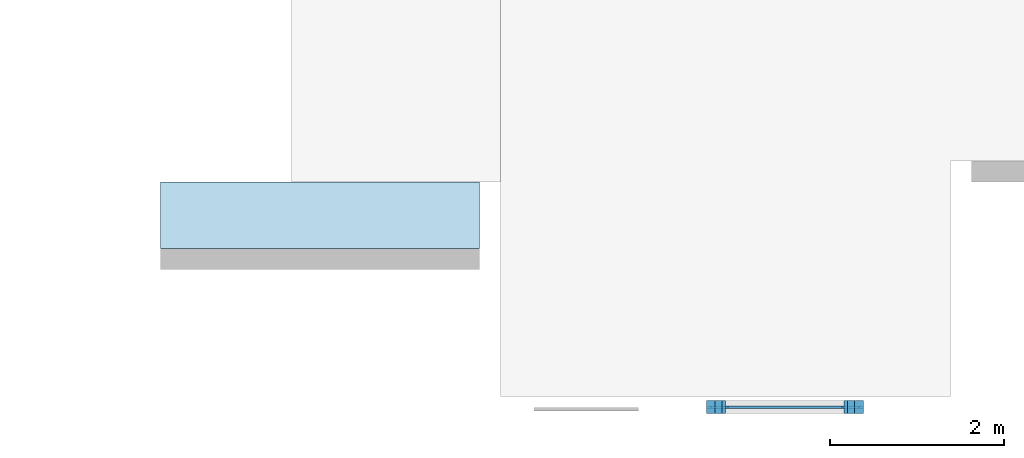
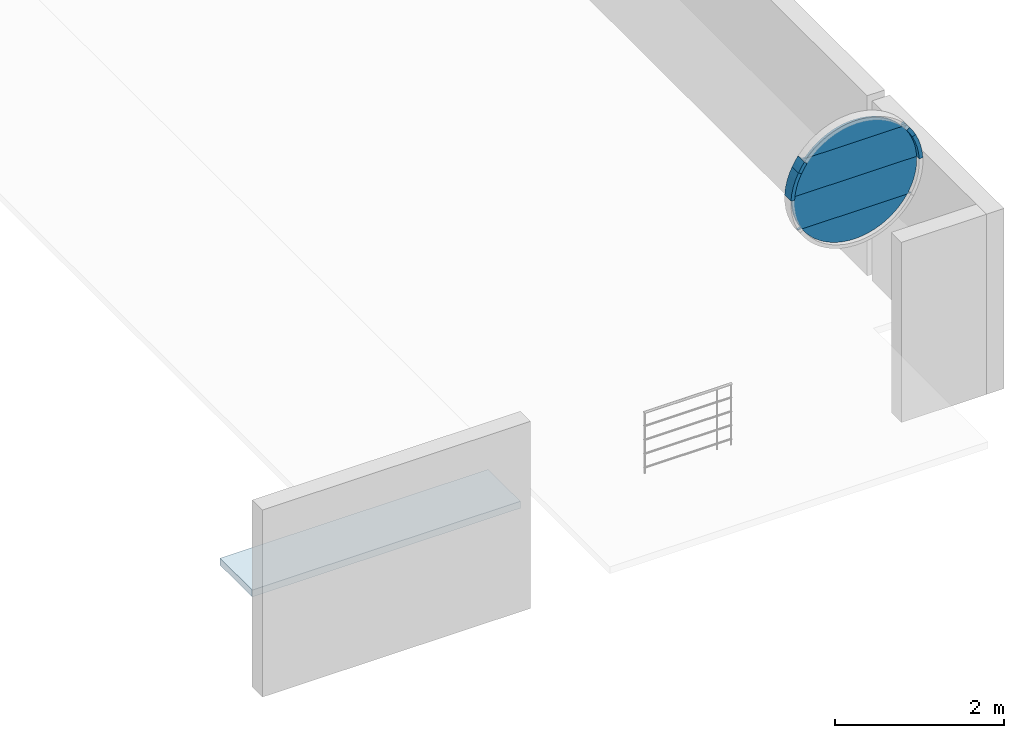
# One storey, part 1 of 4: 4 members, 4 plates, 1 slab, 2 elements without a shape of their own.
"""IFC2X3 building model written with IfcOpenShell, lengths in millimetres."""

from ifc_helpers import new_model, entity, si_unit, converted_unit, derived_unit, direction, frame, frame_2d, origin, place, context, subcontext, project, spatial, polyline, circle_curve, parameter, trimmed, segment, composite_curve, rectangle, outline, extrude, faceted_brep, source, transform, mapped, material, layer, layer_set, layer_usage, type_object, type_shapes, element, aggregate, save


model = new_model("IFC2X3")

# Units and contexts
model_context = context("Model", 3, precision=0.01, world=origin(), true_north=direction((6.12303176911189e-17, 1.0)))
body_context = subcontext(model_context, "Body", "Model", "MODEL_VIEW")
ifc_project = project(units=[si_unit("LENGTHUNIT", "METRE", prefix="MILLI"), si_unit("AREAUNIT", "SQUARE_METRE"), si_unit("VOLUMEUNIT", "CUBIC_METRE"), converted_unit("PLANEANGLEUNIT", "DEGREE", entity("IfcRatioMeasure", 0.0174532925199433), si_unit("PLANEANGLEUNIT", "RADIAN"), dimensions=[0, 0, 0, 0, 0, 0, 0]), si_unit("MASSUNIT", "GRAM", prefix="KILO"), derived_unit("MASSDENSITYUNIT", [(si_unit("MASSUNIT", "GRAM", prefix="KILO"), 1), (si_unit("LENGTHUNIT", "METRE"), -3)]), si_unit("TIMEUNIT", "SECOND"), si_unit("FREQUENCYUNIT", "HERTZ"), si_unit("THERMODYNAMICTEMPERATUREUNIT", "DEGREE_CELSIUS"), derived_unit("THERMALTRANSMITTANCEUNIT", [(si_unit("MASSUNIT", "GRAM", prefix="KILO"), 1), (si_unit("THERMODYNAMICTEMPERATUREUNIT", "KELVIN"), -1), (si_unit("TIMEUNIT", "SECOND"), -3)]), derived_unit("VOLUMETRICFLOWRATEUNIT", [(si_unit("LENGTHUNIT", "METRE"), 3), (si_unit("TIMEUNIT", "SECOND"), -1)]), si_unit("ELECTRICCURRENTUNIT", "AMPERE"), si_unit("ELECTRICVOLTAGEUNIT", "VOLT"), si_unit("POWERUNIT", "WATT"), si_unit("FORCEUNIT", "NEWTON", prefix="KILO"), si_unit("ILLUMINANCEUNIT", "LUX"), si_unit("LUMINOUSFLUXUNIT", "LUMEN"), si_unit("LUMINOUSINTENSITYUNIT", "CANDELA"), derived_unit("USERDEFINED", [(si_unit("MASSUNIT", "GRAM", prefix="KILO"), -1), (si_unit("LENGTHUNIT", "METRE"), -2), (si_unit("TIMEUNIT", "SECOND"), 3), (si_unit("LUMINOUSFLUXUNIT", "LUMEN"), 1)]), derived_unit("LINEARVELOCITYUNIT", [(si_unit("LENGTHUNIT", "METRE"), 1), (si_unit("TIMEUNIT", "SECOND"), -1)]), si_unit("PRESSUREUNIT", "PASCAL"), derived_unit("USERDEFINED", [(si_unit("LENGTHUNIT", "METRE"), -2), (si_unit("MASSUNIT", "GRAM", prefix="KILO"), 1), (si_unit("TIMEUNIT", "SECOND"), -2)])], contexts=[model_context])

# Site, building, storey
site_placement = place(None, origin())
site = spatial("IfcSite", under=ifc_project, at=site_placement, Name="表面", CompositionType="ELEMENT")
building_placement = place(site_placement, origin())
building = spatial("IfcBuilding", under=site, at=building_placement, CompositionType="ELEMENT")
storey_placement = place(building_placement, frame((0.0, 0.0, 9000.0)))
storey = spatial("IfcBuildingStorey", under=building, at=storey_placement, Name="4F", CompositionType="ELEMENT", Elevation=9000.00000000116)

# Curtain wall, members, plates
curtain_wall_type = type_object("IfcCurtainWallType", Name="幕墙:幕墙 1", PredefinedType="NOTDEFINED")
curtain_wall_placement = place(storey_placement, frame((0.0, 0.0, -9000.0)))
curtain_wall = element("IfcCurtainWall", 1, at=curtain_wall_placement, inside=storey, type_object=curtain_wall_type, Name="幕墙:幕墙 1", ObjectType="幕墙:幕墙 1")
ifc_material_1 = material(Name="金属 - 铝")
member_type_1 = type_object("IfcMemberType", Name="50 x 150mm", PredefinedType="MEMBER")
shared_shape_1 = source(origin(), body_context, "Body", "Brep", [
    faceted_brep([(-50.0, 75.0, 0.0), (-50.0, -75.0, 0.0), (0.0, -75.0, 0.0), (0.0, 75.0, 0.0), (-12.7902085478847, 75.0, -151.305395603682), (-12.7902085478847, -75.0, -151.305395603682), (-62.0807057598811, -75.0, -142.912131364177), (-62.0807057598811, 75.0, -142.912131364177), (-53.0255525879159, 75.0, -71.710913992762), (-3.20324402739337, 75.0, -75.9225134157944), (-53.0255525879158, -75.0, -71.710913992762), (-3.20324402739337, -75.0, -75.9225134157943)], [[[0, 1, 2, 3]], [[4, 5, 6, 7]], [[8, 0, 3, 9, 4, 7]], [[10, 1, 0, 8]], [[7, 6, 10, 8]], [[11, 2, 1, 10, 6, 5]], [[3, 2, 11, 9]], [[9, 11, 5, 4]]]),
])
type_shapes(member_type_1, [shared_shape_1])
member_1_placement = place(storey_placement, frame((-7850.24991264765, -32116.868426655, 6239.71771839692), z_axis=(0.460697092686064, 0.0, -0.887557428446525), x_axis=(0.887557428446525, 0.0, 0.460697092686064)))
member_1 = element("IfcMember", 2, at=member_1_placement, type_object=member_type_1, material=ifc_material_1, Name="矩形竖梃:50 x 150mm", ObjectType="50 x 150mm", context=body_context, shape_type="MappedRepresentation", body=[
    mapped(shared_shape_1, transform((0.0, 0.0, 0.0), scale=1.0)),
])
member_type_2 = type_object("IfcMemberType", Name="50 x 150mm", PredefinedType="MEMBER")
shared_shape_2 = source(origin(), body_context, "Body", "Brep", [
    faceted_brep([(-46.5399812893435, 75.0, -285.887506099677), (-82.1796667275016, 75.0, -376.021021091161), (-127.620968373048, 75.0, -355.162255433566), (-93.9582996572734, 75.0, -270.028657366), (-69.6315880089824, 75.0, -181.77268937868), (-54.9221257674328, 75.0, -91.4148645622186), (-50.0, 75.0, 0.0), (0.0, 75.0, 0.0), (-5.21120341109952, 75.0, -96.7836817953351), (-20.7845559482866, 75.0, -192.448243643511), (-54.9221257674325, -75.0, -91.4148645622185), (-50.0, -75.0, 0.0), (-69.6315880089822, -75.0, -181.77268937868), (-127.620968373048, -75.0, -355.162255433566), (-93.9582996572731, -75.0, -270.028657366), (-82.1796667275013, -75.0, -376.021021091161), (-46.5399812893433, -75.0, -285.887506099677), (-20.7845559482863, -75.0, -192.448243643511), (-5.21120341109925, -75.0, -96.7836817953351), (0.0, -75.0, 0.0)], [[[0, 1, 2, 3, 4, 5, 6, 7, 8, 9]], [[5, 10, 11, 6]], [[10, 5, 4, 12]], [[3, 2, 13, 14]], [[4, 3, 14, 12]], [[12, 14, 13, 15, 16, 17, 18, 19, 11, 10]], [[7, 19, 18, 8]], [[9, 8, 18, 17]], [[16, 15, 1, 0]], [[16, 0, 9, 17]], [[7, 6, 11, 19]], [[2, 1, 15, 13]]]),
])
type_shapes(member_type_2, [shared_shape_2])
member_2_placement = place(storey_placement, frame((-9450.24991264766, -32116.868426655, 6239.71771839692), z_axis=(0.460697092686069, 0.0, 0.887557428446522), x_axis=(-0.887557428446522, 0.0, 0.460697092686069)))
member_2 = element("IfcMember", 3, at=member_2_placement, type_object=member_type_2, material=ifc_material_1, Name="矩形竖梃:50 x 150mm", ObjectType="50 x 150mm", context=body_context, shape_type="MappedRepresentation", body=[
    mapped(shared_shape_2, transform((0.0, 0.0, 0.0), scale=1.0)),
])
member_type_3 = type_object("IfcMemberType", Name="50 x 150mm", PredefinedType="MEMBER")
shared_shape_3 = source(origin(), body_context, "Body", "Brep", [
    faceted_brep([(-50.0, 75.0, 0.0), (-50.0, -75.0, 0.0), (0.0, -75.0, 0.0), (0.0, 75.0, 0.0), (-12.7902085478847, 75.0, -151.305395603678), (-12.7902085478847, -75.0, -151.305395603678), (-62.0807057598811, -75.0, -142.912131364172), (-62.0807057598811, 75.0, -142.912131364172), (-53.0255525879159, 75.0, -71.7109139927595), (-3.20324402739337, 75.0, -75.922513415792), (-53.0255525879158, -75.0, -71.7109139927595), (-3.20324402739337, -75.0, -75.922513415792)], [[[0, 1, 2, 3]], [[4, 5, 6, 7]], [[8, 0, 3, 9, 4, 7]], [[10, 1, 0, 8]], [[7, 6, 10, 8]], [[11, 2, 1, 10, 6, 5]], [[3, 2, 11, 9]], [[9, 11, 5, 4]]]),
])
type_shapes(member_type_3, [shared_shape_3])
member_3_placement = place(storey_placement, frame((-9369.19191217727, -32116.868426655, 6368.11753433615), z_axis=(0.603149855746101, 0.0, 0.797627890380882), x_axis=(-0.797627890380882, 0.0, 0.603149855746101)))
member_3 = element("IfcMember", 4, at=member_3_placement, type_object=member_type_3, material=ifc_material_1, Name="矩形竖梃:50 x 150mm", ObjectType="50 x 150mm", context=body_context, shape_type="MappedRepresentation", body=[
    mapped(shared_shape_3, transform((0.0, 0.0, 0.0), scale=1.0)),
])
member_type_4 = type_object("IfcMemberType", Name="50 x 150mm", PredefinedType="MEMBER")
shared_shape_4 = source(origin(), body_context, "Body", "Brep", [
    faceted_brep([(-46.5399812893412, 75.0, -285.887506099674), (-82.1796667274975, 75.0, -376.021021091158), (-127.620968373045, 75.0, -355.162255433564), (-93.9582996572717, 75.0, -270.028657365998), (-69.6315880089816, 75.0, -181.772689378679), (-54.9221257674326, 75.0, -91.4148645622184), (-50.0, 75.0, 0.0), (0.0, 75.0, 0.0), (-5.21120341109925, 75.0, -96.783681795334), (-20.7845559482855, 75.0, -192.448243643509), (-54.9221257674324, -75.0, -91.4148645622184), (-50.0, -75.0, 0.0), (-69.6315880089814, -75.0, -181.772689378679), (-127.620968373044, -75.0, -355.162255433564), (-93.9582996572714, -75.0, -270.028657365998), (-82.1796667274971, -75.0, -376.021021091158), (-46.539981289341, -75.0, -285.887506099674), (-20.7845559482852, -75.0, -192.448243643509), (-5.21120341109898, -75.0, -96.783681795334), (0.0, -75.0, 0.0)], [[[0, 1, 2, 3, 4, 5, 6, 7, 8, 9]], [[5, 10, 11, 6]], [[10, 5, 4, 12]], [[3, 2, 13, 14]], [[4, 3, 14, 12]], [[12, 14, 13, 15, 16, 17, 18, 19, 11, 10]], [[7, 19, 18, 8]], [[9, 8, 18, 17]], [[16, 15, 1, 0]], [[16, 0, 9, 17]], [[7, 6, 11, 19]], [[2, 1, 15, 13]]]),
])
type_shapes(member_type_4, [shared_shape_4])
member_4_placement = place(storey_placement, frame((-7749.95729511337, -32116.868426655, 5868.11753433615), z_axis=(0.0484264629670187, 0.0, -0.998826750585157), x_axis=(0.998826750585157, 0.0, 0.0484264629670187)))
member_4 = element("IfcMember", 5, at=member_4_placement, type_object=member_type_4, material=ifc_material_1, Name="矩形竖梃:50 x 150mm", ObjectType="50 x 150mm", context=body_context, shape_type="MappedRepresentation", body=[
    mapped(shared_shape_4, transform((0.0, 0.0, 0.0), scale=1.0)),
])
ifc_material_2 = material(Name="<Unnamed>")
ifc_layer_1 = layer(ifc_material_2, 30.0)
ifc_layer_set_1 = layer_set([ifc_layer_1], Name="幕墙系统:1450 x 2100mm")
ifc_layer_usage_1 = layer_usage(ifc_layer_set_1, "AXIS3", "POSITIVE", 0.0)
plate_type_1 = type_object("IfcPlateType", Name="玻璃", PredefinedType="CURTAIN_PANEL", material=ifc_layer_set_1)
shared_shape_5 = source(origin(), body_context, "Body", "SweptSolid", [
    extrude(outline(composite_curve([segment(trimmed(circle_curve(frame_2d((-231.049009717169, 393.538319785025), x_axis=(1.0, 0.0)), 851.350126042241), [parameter(242.831400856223)], [parameter(358.003565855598)], True, "PARAMETER"), True, "CONTINUOUS"), segment(polyline([(619.784344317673, 363.879581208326), (-619.784344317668, -363.879581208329)]), True, "CONTINUOUS")], self_intersect=False)), frame((0.0, -15.0, 0.0), z_axis=(0.0, 1.0, 0.0), x_axis=(-0.862359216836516, 0.0, -0.506296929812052)), (0.0, 0.0, 1.0), 30.0),
])
type_shapes(plate_type_1, [shared_shape_5])
plate_1_placement = place(curtain_wall_placement, frame((-8650.24991264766, -32116.868426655, 14368.1175343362)))
plate_1 = element("IfcPlate", 6, at=plate_1_placement, type_object=plate_type_1, material=ifc_layer_usage_1, Name="系统嵌板:玻璃", ObjectType="玻璃", context=body_context, shape_type="MappedRepresentation", body=[
    mapped(shared_shape_5, transform((0.0, 0.0, 0.0), scale=1.0)),
])
ifc_layer_usage_2 = layer_usage(ifc_layer_set_1, "AXIS3", "POSITIVE", 0.0)
plate_type_2 = type_object("IfcPlateType", Name="玻璃", PredefinedType="CURTAIN_PANEL", material=ifc_layer_set_1)
shared_shape_6 = source(origin(), body_context, "Body", "SweptSolid", [
    extrude(outline(composite_curve([segment(polyline([(-799.773078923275, 173.012905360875), (540.829153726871, -614.063734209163)]), True, "CONTINUOUS"), segment(polyline([(540.829153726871, -614.063734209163), (516.46281184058, -570.402751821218)]), True, "CONTINUOUS"), segment(trimmed(circle_curve(frame_2d((101.577047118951, 173.012905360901), x_axis=(0.487326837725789, -0.873219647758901)), 851.35012604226), [parameter(0.0)], [parameter(33.1932009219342)], True, "PARAMETER"), True, "CONTINUOUS"), segment(polyline([(855.758857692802, -221.964098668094), (900.052138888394, -245.161194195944)]), True, "CONTINUOUS"), segment(polyline([(900.052138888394, -245.161194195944), (-652.699134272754, 666.469582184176)]), True, "CONTINUOUS"), segment(polyline([(-652.699134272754, 666.469582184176), (-610.857670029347, 639.096385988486)]), True, "CONTINUOUS"), segment(trimmed(circle_curve(frame_2d((101.577047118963, 173.012905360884), x_axis=(-0.836829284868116, 0.547463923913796)), 851.350126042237), [parameter(0.0)], [parameter(33.1932009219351)], True, "PARAMETER"), True, "CONTINUOUS"), segment(polyline([(-749.773078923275, 173.012905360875), (-799.773078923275, 173.012905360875)]), True, "CONTINUOUS")], self_intersect=False)), frame((0.0, -15.0, 255.723380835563), z_axis=(0.0, -1.0, 0.0), x_axis=(0.862359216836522, 0.0, 0.506296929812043)), (0.0, 0.0, -1.0), 30.0),
])
type_shapes(plate_type_2, [shared_shape_6])
plate_2_placement = place(curtain_wall_placement, frame((-8650.24991264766, -32116.868426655, 14368.1175343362)))
plate_2 = element("IfcPlate", 7, at=plate_2_placement, type_object=plate_type_2, material=ifc_layer_usage_2, Name="系统嵌板:玻璃", ObjectType="玻璃", context=body_context, shape_type="MappedRepresentation", body=[
    mapped(shared_shape_6, transform((0.0, 0.0, 0.0), scale=1.0)),
])
ifc_layer_usage_3 = layer_usage(ifc_layer_set_1, "AXIS3", "POSITIVE", 0.0)
plate_type_3 = type_object("IfcPlateType", Name="玻璃", PredefinedType="CURTAIN_PANEL", material=ifc_layer_set_1)
shared_shape_7 = source(origin(), body_context, "Body", "SweptSolid", [
    extrude(outline(composite_curve([segment(trimmed(circle_curve(frame_2d((-171.955723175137, -331.281837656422), x_axis=(1.0, 0.0)), 851.350126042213), [parameter(335.506776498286)], [parameter(0.0)], True, "PARAMETER"), True, "CONTINUOUS"), segment(trimmed(circle_curve(frame_2d((-171.955723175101, -331.281837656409), x_axis=(0.985809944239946, 0.167865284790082)), 851.350126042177), [parameter(350.336274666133)], [parameter(0.0)], True, "PARAMETER"), True, "CONTINUOUS"), segment(polyline([(667.313697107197, -188.36970629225), (716.604194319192, -179.976442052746)]), True, "CONTINUOUS"), segment(polyline([(716.604194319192, -179.976442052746), (-559.600430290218, 482.452535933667)]), True, "CONTINUOUS"), segment(polyline([(-559.600430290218, 482.452535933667), (-538.096871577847, 437.312786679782)]), True, "CONTINUOUS"), segment(trimmed(circle_curve(frame_2d((-171.955723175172, -331.281837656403), x_axis=(-0.575516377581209, 0.817790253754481)), 851.350126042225), [parameter(350.336274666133)], [parameter(0.0)], True, "PARAMETER"), True, "CONTINUOUS"), segment(trimmed(circle_curve(frame_2d((-171.955723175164, -331.281837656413), x_axis=(-0.864206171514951, 0.503137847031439)), 851.350126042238), [parameter(335.343618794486)], [parameter(359.836842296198)], True, "PARAMETER"), True, "CONTINUOUS"), segment(polyline([(-906.474998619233, 99.1580200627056), (602.781669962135, -684.239354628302)]), True, "CONTINUOUS")], self_intersect=False)), frame((0.0, -15.0, 329.60195915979), z_axis=(0.0, 1.0, 0.0), x_axis=(-0.88755742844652, 0.0, 0.460697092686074)), (0.0, 0.0, 1.0), 30.0),
])
type_shapes(plate_type_3, [shared_shape_7])
plate_3_placement = place(curtain_wall_placement, frame((-8650.24991264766, -32116.868426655, 14868.1175343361)))
plate_3 = element("IfcPlate", 8, at=plate_3_placement, type_object=plate_type_3, material=ifc_layer_usage_3, Name="系统嵌板:玻璃", ObjectType="玻璃", context=body_context, shape_type="MappedRepresentation", body=[
    mapped(shared_shape_7, transform((0.0, 0.0, 0.0), scale=1.0)),
])
ifc_layer_usage_4 = layer_usage(ifc_layer_set_1, "AXIS3", "POSITIVE", 0.0)
plate_type_4 = type_object("IfcPlateType", Name="玻璃", PredefinedType="CURTAIN_PANEL", material=ifc_layer_set_1)
shared_shape_8 = source(origin(), body_context, "Body", "SweptSolid", [
    extrude(outline(composite_curve([segment(trimmed(circle_curve(frame_2d((-327.901935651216, 433.6297633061), x_axis=(1.0, 0.0)), 851.350126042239), [parameter(256.781317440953)], [parameter(357.410330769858)], True, "PARAMETER"), True, "CONTINUOUS"), segment(polyline([(522.578734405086, 395.163323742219), (-522.578734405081, -395.16332374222)]), True, "CONTINUOUS")], self_intersect=False)), frame((0.0, -15.0, 0.0), z_axis=(0.0, 1.0, 0.0), x_axis=(0.797627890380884, 0.0, 0.603149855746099)), (0.0, 0.0, 1.0), 30.0),
])
type_shapes(plate_type_4, [shared_shape_8])
plate_4_placement = place(curtain_wall_placement, frame((-8650.24991264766, -32116.868426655, 15368.1175343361)))
plate_4 = element("IfcPlate", 9, at=plate_4_placement, type_object=plate_type_4, material=ifc_layer_usage_4, Name="系统嵌板:玻璃", ObjectType="玻璃", context=body_context, shape_type="MappedRepresentation", body=[
    mapped(shared_shape_8, transform((0.0, 0.0, 0.0), scale=1.0)),
])
aggregate(curtain_wall, [plate_1, plate_2, plate_3, plate_4, member_1, member_2, member_3, member_4])

# Roof, slab
roof_placement = place(storey_placement, frame((-15810.2499126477, -30296.868426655, 1200.0)))
roof = element("IfcRoof", 10, at=roof_placement, inside=storey, Name="基本屋顶:白屋顶", ObjectType="基本屋顶:白屋顶", ShapeType="NOTDEFINED")
ifc_material_3 = material(Name="白色涂料")
ifc_layer_2 = layer(ifc_material_3, 10.0)
ifc_material_4 = material(Name="默认屋顶")
ifc_layer_3 = layer(ifc_material_4, 80.0)
ifc_layer_4 = layer(ifc_material_3, 10.0)
ifc_layer_set_2 = layer_set([ifc_layer_2, ifc_layer_3, ifc_layer_4], Name="基本屋顶:白屋顶")
slab_placement = place(roof_placement, origin())
slab = element("IfcSlab", 11, at=slab_placement, material=ifc_layer_set_2, Name="基本屋顶:白屋顶", ObjectType="基本屋顶:白屋顶", PredefinedType="ROOF", context=body_context, shape_type="SweptSolid", body=[
    extrude(rectangle(XDim=3659.99999999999, YDim=760.000000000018, at=frame_2d((1.13686837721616e-12, 0.0), x_axis=(-1.0, 0.0))), frame((1830.0, 380.0, 0.0)), (0.0, 0.0, 1.0), 99.9999999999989),
])
aggregate(roof, [slab])

save(model, "model.ifc")
